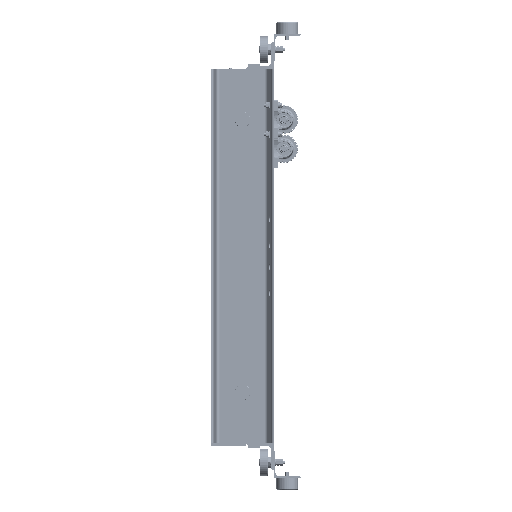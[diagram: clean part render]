
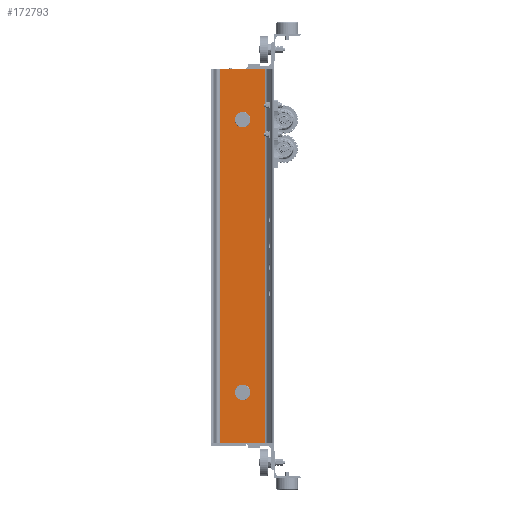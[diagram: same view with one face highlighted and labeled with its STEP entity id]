
A CAD part, left-side view. The second image highlights one B-rep face of the part: STEP entity #172793.
In plain terms, the highlighted planar face has unit normal (-1, 0, 0) as drawn and (1, 0, 0) by its records, which use the part's own axes.
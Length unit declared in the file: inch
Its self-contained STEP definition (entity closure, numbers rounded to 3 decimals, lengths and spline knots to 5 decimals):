
#1924 = CARTESIAN_POINT ( 'NONE',  ( 0.353, 4.8585, 17.5 ) ) ;
#3547 = CARTESIAN_POINT ( 'NONE',  ( 0.353, 1.14232, -24. ) ) ;
#4189 = ORIENTED_EDGE ( 'NONE', *, *, #28064, .F. ) ;
#4316 = CARTESIAN_POINT ( 'NONE',  ( 0.353, 1.14232, 24. ) ) ;
#10606 = CARTESIAN_POINT ( 'NONE',  ( 0.353, 6.85768, -24. ) ) ;
#12077 = CARTESIAN_POINT ( 'NONE',  ( 0.353, 4.8585, -17.5 ) ) ;
#13888 = VERTEX_POINT ( 'NONE', #58704 ) ;
#14958 = CARTESIAN_POINT ( 'NONE',  ( 0.353, 1.14232, 24. ) ) ;
#25609 = LINE ( 'NONE', #197332, #46458 ) ;
#27838 = CARTESIAN_POINT ( 'NONE',  ( 0.353, 6.85768, 24. ) ) ;
#28043 = AXIS2_PLACEMENT_3D ( 'NONE', #39102, #95272, #163668 ) ;
#28064 = EDGE_CURVE ( 'NONE', #100960, #13888, #64002, .T. ) ;
#28491 = EDGE_CURVE ( 'NONE', #156657, #39196, #214882, .T. ) ;
#28819 = DIRECTION ( 'NONE',  ( 1., 0., 0. ) ) ;
#32389 = CIRCLE ( 'NONE', #61127, 0.8875 ) ;
#33313 = DIRECTION ( 'NONE',  ( 1., 0., 0. ) ) ;
#33623 = VERTEX_POINT ( 'NONE', #3547 ) ;
#33982 = CIRCLE ( 'NONE', #220338, 0.8875 ) ;
#38060 = EDGE_CURVE ( 'NONE', #214290, #33623, #100375, .T. ) ;
#39102 = CARTESIAN_POINT ( 'NONE',  ( 0.353, 6.85768, 24. ) ) ;
#39196 = VERTEX_POINT ( 'NONE', #10606 ) ;
#46458 = VECTOR ( 'NONE', #160335, 39.37008 ) ;
#46493 = DIRECTION ( 'NONE',  ( 0., 0., -1. ) ) ;
#50520 = VERTEX_POINT ( 'NONE', #157758 ) ;
#51122 = CARTESIAN_POINT ( 'NONE',  ( 0.353, 3.971, -17.5 ) ) ;
#58704 = CARTESIAN_POINT ( 'NONE',  ( 0.353, 3.0835, 17.5 ) ) ;
#60618 = VECTOR ( 'NONE', #46493, 39.37008 ) ;
#61127 = AXIS2_PLACEMENT_3D ( 'NONE', #51122, #93709, #157678 ) ;
#61527 = EDGE_CURVE ( 'NONE', #140600, #50520, #32389, .T. ) ;
#64002 = CIRCLE ( 'NONE', #92735, 0.8875 ) ;
#64861 = LINE ( 'NONE', #27838, #206299 ) ;
#71048 = CIRCLE ( 'NONE', #203698, 0.8875 ) ;
#75067 = FACE_BOUND ( 'NONE', #161308, .T. ) ;
#78855 = ORIENTED_EDGE ( 'NONE', *, *, #157823, .T. ) ;
#82268 = VECTOR ( 'NONE', #151959, 39.37008 ) ;
#86902 = ORIENTED_EDGE ( 'NONE', *, *, #61527, .F. ) ;
#88057 = CARTESIAN_POINT ( 'NONE',  ( 0.353, 3.971, -17.5 ) ) ;
#92735 = AXIS2_PLACEMENT_3D ( 'NONE', #182617, #28819, #96260 ) ;
#93709 = DIRECTION ( 'NONE',  ( 1., 0., 0. ) ) ;
#95272 = DIRECTION ( 'NONE',  ( 1., 0., 0. ) ) ;
#96260 = DIRECTION ( 'NONE',  ( 0., 1., 0. ) ) ;
#99808 = ORIENTED_EDGE ( 'NONE', *, *, #176286, .F. ) ;
#100375 = LINE ( 'NONE', #14958, #82268 ) ;
#100960 = VERTEX_POINT ( 'NONE', #1924 ) ;
#102331 = ORIENTED_EDGE ( 'NONE', *, *, #144510, .F. ) ;
#110992 = FACE_OUTER_BOUND ( 'NONE', #159073, .T. ) ;
#136405 = DIRECTION ( 'NONE',  ( 0., 1., 0. ) ) ;
#140600 = VERTEX_POINT ( 'NONE', #12077 ) ;
#142360 = ORIENTED_EDGE ( 'NONE', *, *, #184761, .F. ) ;
#144510 = EDGE_CURVE ( 'NONE', #13888, #100960, #71048, .T. ) ;
#151828 = CARTESIAN_POINT ( 'NONE',  ( 0.353, 6.85768, 24. ) ) ;
#151959 = DIRECTION ( 'NONE',  ( 0., 0., -1. ) ) ;
#156657 = VERTEX_POINT ( 'NONE', #151828 ) ;
#157582 = DIRECTION ( 'NONE',  ( 1., 0., 0. ) ) ;
#157678 = DIRECTION ( 'NONE',  ( 0., 1., 0. ) ) ;
#157758 = CARTESIAN_POINT ( 'NONE',  ( 0.353, 3.0835, -17.5 ) ) ;
#157823 = EDGE_CURVE ( 'NONE', #156657, #214290, #64861, .T. ) ;
#159073 = EDGE_LOOP ( 'NONE', ( #99808, #214044, #78855, #174053 ) ) ;
#159256 = EDGE_LOOP ( 'NONE', ( #4189, #102331 ) ) ;
#160335 = DIRECTION ( 'NONE',  ( 0., -1., 0. ) ) ;
#161308 = EDGE_LOOP ( 'NONE', ( #86902, #142360 ) ) ;
#163668 = DIRECTION ( 'NONE',  ( 0., 1., 0. ) ) ;
#164814 = DIRECTION ( 'NONE',  ( 0., -1., 0. ) ) ;
#166626 = CARTESIAN_POINT ( 'NONE',  ( 0.353, 6.85768, 24. ) ) ;
#172793 = ADVANCED_FACE ( 'NONE', ( #75067, #214132, #110992 ), #195112, .T. ) ;
#174053 = ORIENTED_EDGE ( 'NONE', *, *, #38060, .T. ) ;
#176286 = EDGE_CURVE ( 'NONE', #39196, #33623, #25609, .T. ) ;
#182617 = CARTESIAN_POINT ( 'NONE',  ( 0.353, 3.971, 17.5 ) ) ;
#184761 = EDGE_CURVE ( 'NONE', #50520, #140600, #33982, .T. ) ;
#195112 = PLANE ( 'NONE',  #28043 ) ;
#197332 = CARTESIAN_POINT ( 'NONE',  ( 0.353, 6.85768, -24. ) ) ;
#203698 = AXIS2_PLACEMENT_3D ( 'NONE', #208351, #33313, #220780 ) ;
#206299 = VECTOR ( 'NONE', #164814, 39.37008 ) ;
#208351 = CARTESIAN_POINT ( 'NONE',  ( 0.353, 3.971, 17.5 ) ) ;
#214044 = ORIENTED_EDGE ( 'NONE', *, *, #28491, .F. ) ;
#214132 = FACE_BOUND ( 'NONE', #159256, .T. ) ;
#214290 = VERTEX_POINT ( 'NONE', #4316 ) ;
#214882 = LINE ( 'NONE', #166626, #60618 ) ;
#220338 = AXIS2_PLACEMENT_3D ( 'NONE', #88057, #157582, #136405 ) ;
#220780 = DIRECTION ( 'NONE',  ( 0., 1., 0. ) ) ;
